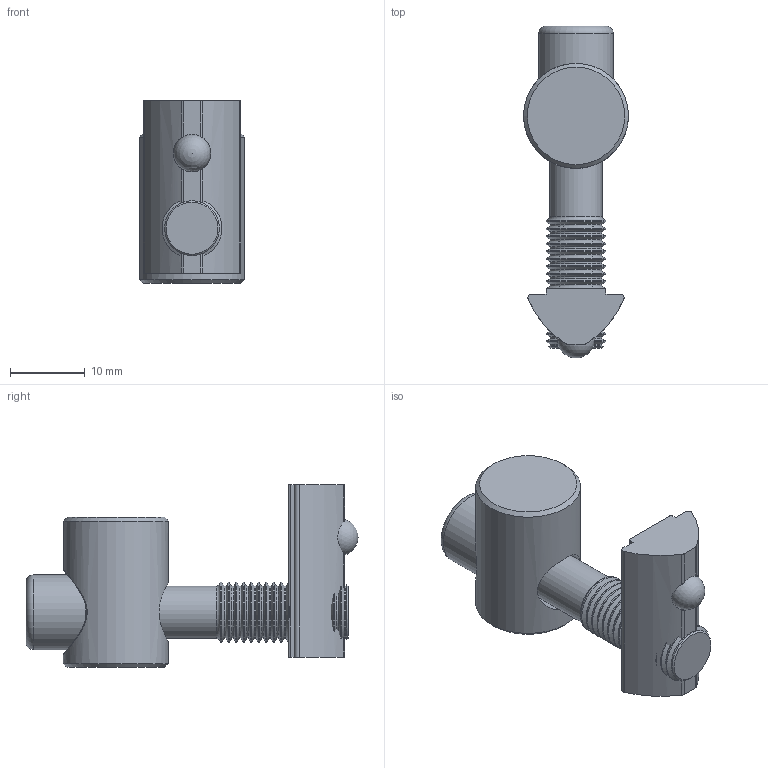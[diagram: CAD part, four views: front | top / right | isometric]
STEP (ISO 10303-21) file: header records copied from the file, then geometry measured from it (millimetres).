
FILE_DESCRIPTION(/* description */ (''),/* implementation_level */ '2;1');
FILE_NAME(/* name */ 'C:\Dokumente und Einstellungen\Buero_44\Eigene Dateien\Neu gemachte Zeichnungen und 3-D Dateien\Neuer Ordner\26.06.2014\S208BVS20\S208BVS20.stp',/* time_stamp */ '2014-06-26T10:15:20+02:00',/* author */ ('Buero_44'),/* organization */ (''),/* preprocessor_version */ 'ST-DEVELOPER v15.2',/* originating_system */ 'Autodesk Inventor 2014',/* authorisation */ '');
FILE_SCHEMA (('AUTOMOTIVE_DESIGN { 1 0 10303 214 3 1 1 }'));
Length unit declared in the file: millimetre
Products named in the file (5): S208BVS20; 1; 2; S208NSMS8
Bounding box: 14 x 44.3 x 24.37 mm (x, y, z)
Volume: 5417.6 mm3; surface area: 4050 mm2
Topology: 4 solids, 4 shells, 123 faces, 278 edges, 162 vertices
Faces by surface type: cylinder 53, cone 38, plane 25, bspline 3, torus 3, sphere 1
Full cylindrical faces by diameter (mm): 5.01 x1, 6.917 x17, 7 x1, 8 x18, 10 x1, 11 x1, 14 x1
Entity records: 4689 total; most frequent: CARTESIAN_POINT 2068, DIRECTION 529, ORIENTED_EDGE 374, AXIS2_PLACEMENT_3D 239, EDGE_LOOP 209, EDGE_CURVE 187, VERTEX_POINT 154, FACE_OUTER_BOUND 123
